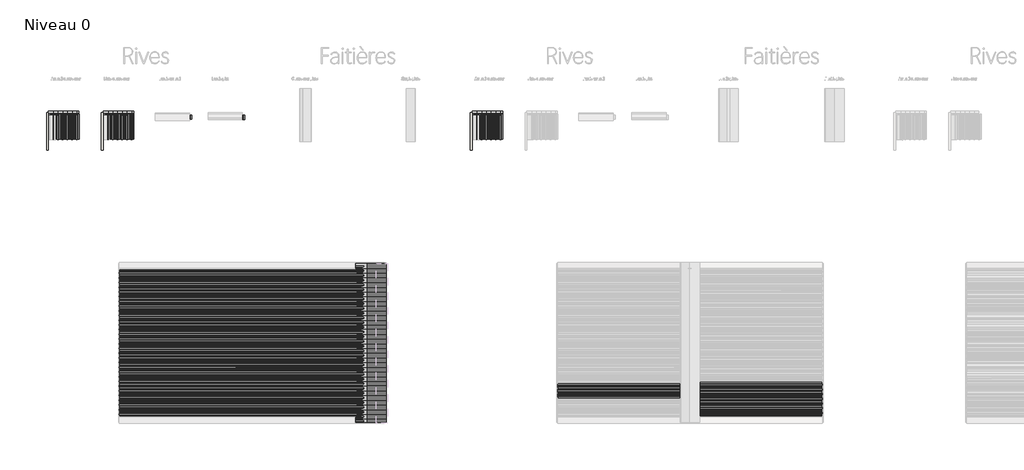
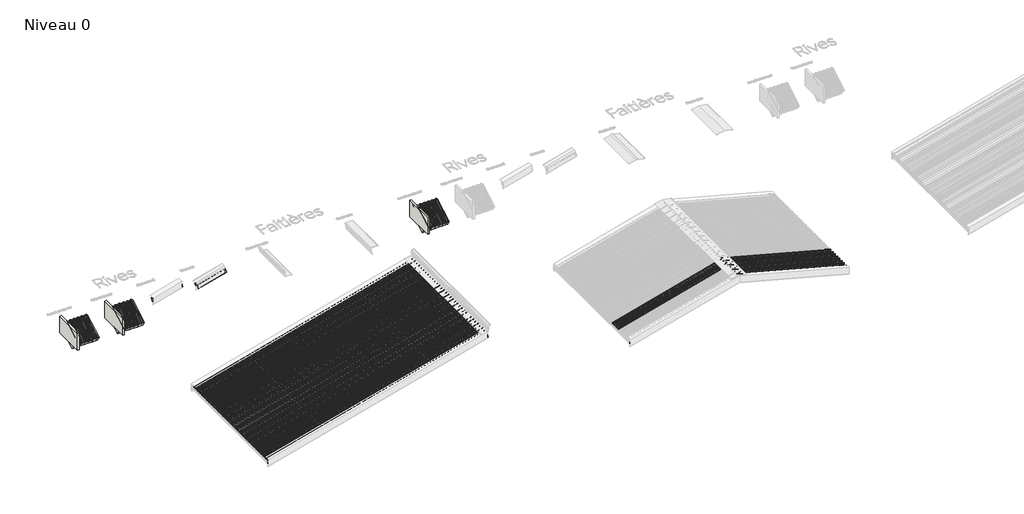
# One storey, part 1 of 26: 65 plates, 62 members, 3 walls.
"""IFC4 building model written with IfcOpenShell, lengths in millimetres."""

from ifc_helpers import new_model, si_unit, origin, origin_with_axes, place, context, project, spatial, polyline, outline, extrude, transform, mapped, element, save
from components import meneau_rectangulaire_d1d4f6c5, meneau_rectangulaire_3ecfb573, meneau_rectangulaire_c6909a84, vide_3626a5d1, vide_fa33940b, vide_f7097931, vide_4c8c02ac, vide_0bd5e38c, vide_01bff3c3, vide_253f0f0f, vide_02c59cd9, vide_d869a2ce, vide_5da8b72d

model = new_model("IFC4")

# Units and contexts
model_context = context("Model", 3, world=origin())
ifc_project = project(units=[si_unit("LENGTHUNIT", "METRE", prefix="MILLI")], contexts=[model_context])

# Site, building, storey
site = spatial("IfcSite", under=ifc_project)
building = spatial("IfcBuilding", under=site)
storey = spatial("IfcBuildingStorey", under=building, Name="Niveau 0", Elevation=0.0)

# Members
placement = place(None, origin())
meneau_rectangulaire_shape = meneau_rectangulaire_d1d4f6c5(model_context)
element("IfcMember", 1, ObjectType="Meneau rectangulaire : Regolare 800", at=placement, inside=storey, context=model_context, shape_type="MappedRepresentation", body=[
    mapped(meneau_rectangulaire_shape, transform((-2456.8177571, -11801.43371, 1339.7459622), x_axis=(0.0, -1.0, 0.0), y_axis=(0.25881904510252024, 0.0, -0.9659258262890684), z_axis=(0.9659258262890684, 0.0, 0.25881904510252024))),
])
element("IfcMember", 2, ObjectType="Meneau rectangulaire : Regolare 800", at=placement, inside=storey, context=model_context, shape_type="MappedRepresentation", body=[
    mapped(meneau_rectangulaire_shape, transform((-2456.8177571, -11890.43371, 1339.7459622), x_axis=(0.0, -1.0, 0.0), y_axis=(0.25881904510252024, 0.0, -0.9659258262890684), z_axis=(0.9659258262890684, 0.0, 0.25881904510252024))),
])
element("IfcMember", 3, ObjectType="Meneau rectangulaire : Regolare 800", at=placement, inside=storey, context=model_context, shape_type="MappedRepresentation", body=[
    mapped(meneau_rectangulaire_shape, transform((-2456.8177571, -11979.43371, 1339.7459622), x_axis=(0.0, -1.0, 0.0), y_axis=(0.25881904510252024, 0.0, -0.9659258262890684), z_axis=(0.9659258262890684, 0.0, 0.25881904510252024))),
])
element("IfcMember", 4, ObjectType="Meneau rectangulaire : Regolare 800", at=placement, inside=storey, context=model_context, shape_type="MappedRepresentation", body=[
    mapped(meneau_rectangulaire_shape, transform((-2456.8177571, -12068.43371, 1339.7459622), x_axis=(0.0, -1.0, 0.0), y_axis=(0.25881904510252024, 0.0, -0.9659258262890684), z_axis=(0.9659258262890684, 0.0, 0.25881904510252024))),
])
element("IfcMember", 5, ObjectType="Meneau rectangulaire : Regolare 800", at=placement, inside=storey, context=model_context, shape_type="MappedRepresentation", body=[
    mapped(meneau_rectangulaire_shape, transform((-2456.8177571, -12157.43371, 1339.7459622), x_axis=(0.0, -1.0, 0.0), y_axis=(0.25881904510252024, 0.0, -0.9659258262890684), z_axis=(0.9659258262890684, 0.0, 0.25881904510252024))),
])
element("IfcMember", 6, ObjectType="Meneau rectangulaire : Regolare 800", at=placement, inside=storey, context=model_context, shape_type="MappedRepresentation", body=[
    mapped(meneau_rectangulaire_shape, transform((-2456.8177571, -12246.43371, 1339.7459622), x_axis=(0.0, -1.0, 0.0), y_axis=(0.25881904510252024, 0.0, -0.9659258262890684), z_axis=(0.9659258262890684, 0.0, 0.25881904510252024))),
])
element("IfcMember", 7, ObjectType="Meneau rectangulaire : Regolare 800", at=placement, inside=storey, context=model_context, shape_type="MappedRepresentation", body=[
    mapped(meneau_rectangulaire_shape, transform((-2456.8177571, -12335.43371, 1339.7459622), x_axis=(0.0, -1.0, 0.0), y_axis=(0.25881904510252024, 0.0, -0.9659258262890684), z_axis=(0.9659258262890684, 0.0, 0.25881904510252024))),
])
element("IfcMember", 8, ObjectType="Meneau rectangulaire : Regolare 800", at=placement, inside=storey, context=model_context, shape_type="MappedRepresentation", body=[
    mapped(meneau_rectangulaire_shape, transform((-2456.8177571, -12424.43371, 1339.7459622), x_axis=(0.0, -1.0, 0.0), y_axis=(0.25881904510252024, 0.0, -0.9659258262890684), z_axis=(0.9659258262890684, 0.0, 0.25881904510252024))),
])
element("IfcMember", 9, ObjectType="Meneau rectangulaire : Regolare 800", at=placement, inside=storey, context=model_context, shape_type="MappedRepresentation", body=[
    mapped(meneau_rectangulaire_shape, transform((-2456.8177571, -12513.43371, 1339.7459622), x_axis=(0.0, -1.0, 0.0), y_axis=(0.25881904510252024, 0.0, -0.9659258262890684), z_axis=(0.9659258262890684, 0.0, 0.25881904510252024))),
])
element("IfcMember", 10, ObjectType="Meneau rectangulaire : Regolare 800", at=placement, inside=storey, context=model_context, shape_type="MappedRepresentation", body=[
    mapped(meneau_rectangulaire_shape, transform((-2456.8177571, -12602.43371, 1339.7459622), x_axis=(0.0, -1.0, 0.0), y_axis=(0.25881904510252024, 0.0, -0.9659258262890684), z_axis=(0.9659258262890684, 0.0, 0.25881904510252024))),
])
element("IfcMember", 11, ObjectType="Meneau rectangulaire : Regolare 800", at=placement, inside=storey, context=model_context, shape_type="MappedRepresentation", body=[
    mapped(meneau_rectangulaire_shape, transform((-2456.8177571, -12691.43371, 1339.7459622), x_axis=(0.0, -1.0, 0.0), y_axis=(0.25881904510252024, 0.0, -0.9659258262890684), z_axis=(0.9659258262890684, 0.0, 0.25881904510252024))),
])
element("IfcMember", 12, ObjectType="Meneau rectangulaire : Regolare 800", at=placement, inside=storey, context=model_context, shape_type="MappedRepresentation", body=[
    mapped(meneau_rectangulaire_shape, transform((-2456.8177571, -12780.43371, 1339.7459622), x_axis=(0.0, -1.0, 0.0), y_axis=(0.25881904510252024, 0.0, -0.9659258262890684), z_axis=(0.9659258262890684, 0.0, 0.25881904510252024))),
])
element("IfcMember", 13, ObjectType="Meneau rectangulaire : Regolare 800", at=placement, inside=storey, context=model_context, shape_type="MappedRepresentation", body=[
    mapped(meneau_rectangulaire_shape, transform((-2456.8177571, -12869.43371, 1339.7459622), x_axis=(0.0, -1.0, 0.0), y_axis=(0.25881904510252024, 0.0, -0.9659258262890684), z_axis=(0.9659258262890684, 0.0, 0.25881904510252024))),
])
element("IfcMember", 14, ObjectType="Meneau rectangulaire : Regolare 800", at=placement, inside=storey, context=model_context, shape_type="MappedRepresentation", body=[
    mapped(meneau_rectangulaire_shape, transform((-2456.8177571, -12958.43371, 1339.7459622), x_axis=(0.0, -1.0, 0.0), y_axis=(0.25881904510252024, 0.0, -0.9659258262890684), z_axis=(0.9659258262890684, 0.0, 0.25881904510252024))),
])
element("IfcMember", 15, ObjectType="Meneau rectangulaire : Regolare 800", at=placement, inside=storey, context=model_context, shape_type="MappedRepresentation", body=[
    mapped(meneau_rectangulaire_shape, transform((-2456.8177571, -13047.43371, 1339.7459622), x_axis=(0.0, -1.0, 0.0), y_axis=(0.25881904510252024, 0.0, -0.9659258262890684), z_axis=(0.9659258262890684, 0.0, 0.25881904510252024))),
])
element("IfcMember", 16, ObjectType="Meneau rectangulaire : Regolare 800", at=placement, inside=storey, context=model_context, shape_type="MappedRepresentation", body=[
    mapped(meneau_rectangulaire_shape, transform((-2456.8177571, -13136.43371, 1339.7459622), x_axis=(0.0, -1.0, 0.0), y_axis=(0.25881904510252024, 0.0, -0.9659258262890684), z_axis=(0.9659258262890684, 0.0, 0.25881904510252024))),
])
element("IfcMember", 17, ObjectType="Meneau rectangulaire : Regolare 800", at=placement, inside=storey, context=model_context, shape_type="MappedRepresentation", body=[
    mapped(meneau_rectangulaire_shape, transform((-2456.8177571, -13225.43371, 1339.7459622), x_axis=(0.0, -1.0, 0.0), y_axis=(0.25881904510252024, 0.0, -0.9659258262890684), z_axis=(0.9659258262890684, 0.0, 0.25881904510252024))),
])
element("IfcMember", 18, ObjectType="Meneau rectangulaire : Regolare 800", at=placement, inside=storey, context=model_context, shape_type="MappedRepresentation", body=[
    mapped(meneau_rectangulaire_shape, transform((-2456.8177571, -13314.43371, 1339.7459622), x_axis=(0.0, -1.0, 0.0), y_axis=(0.25881904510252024, 0.0, -0.9659258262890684), z_axis=(0.9659258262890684, 0.0, 0.25881904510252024))),
])
element("IfcMember", 19, ObjectType="Meneau rectangulaire : Regolare 800", at=placement, inside=storey, context=model_context, shape_type="MappedRepresentation", body=[
    mapped(meneau_rectangulaire_shape, transform((-2456.8177571, -13403.43371, 1339.7459622), x_axis=(0.0, -1.0, 0.0), y_axis=(0.25881904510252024, 0.0, -0.9659258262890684), z_axis=(0.9659258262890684, 0.0, 0.25881904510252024))),
])
element("IfcMember", 20, ObjectType="Meneau rectangulaire : Regolare 800", at=placement, inside=storey, context=model_context, shape_type="MappedRepresentation", body=[
    mapped(meneau_rectangulaire_shape, transform((-2456.8177571, -13492.43371, 1339.7459622), x_axis=(0.0, -1.0, 0.0), y_axis=(0.25881904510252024, 0.0, -0.9659258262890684), z_axis=(0.9659258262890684, 0.0, 0.25881904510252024))),
])
element("IfcMember", 21, ObjectType="Meneau rectangulaire : Regolare 800", at=placement, inside=storey, context=model_context, shape_type="MappedRepresentation", body=[
    mapped(meneau_rectangulaire_shape, transform((-2456.8177571, -13581.43371, 1339.7459622), x_axis=(0.0, -1.0, 0.0), y_axis=(0.25881904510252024, 0.0, -0.9659258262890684), z_axis=(0.9659258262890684, 0.0, 0.25881904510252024))),
])
element("IfcMember", 22, ObjectType="Meneau rectangulaire : Regolare 800", at=placement, inside=storey, context=model_context, shape_type="MappedRepresentation", body=[
    mapped(meneau_rectangulaire_shape, transform((-2456.8177571, -13670.43371, 1339.7459622), x_axis=(0.0, -1.0, 0.0), y_axis=(0.25881904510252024, 0.0, -0.9659258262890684), z_axis=(0.9659258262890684, 0.0, 0.25881904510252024))),
])
element("IfcMember", 23, ObjectType="Meneau rectangulaire : Regolare 800", at=placement, inside=storey, context=model_context, shape_type="MappedRepresentation", body=[
    mapped(meneau_rectangulaire_shape, transform((-2456.8177571, -13759.43371, 1339.7459622), x_axis=(0.0, -1.0, 0.0), y_axis=(0.25881904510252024, 0.0, -0.9659258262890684), z_axis=(0.9659258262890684, 0.0, 0.25881904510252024))),
])
element("IfcMember", 24, ObjectType="Meneau rectangulaire : Regolare 800", at=placement, inside=storey, context=model_context, shape_type="MappedRepresentation", body=[
    mapped(meneau_rectangulaire_shape, transform((-2456.8177571, -13848.43371, 1339.7459622), x_axis=(0.0, -1.0, 0.0), y_axis=(0.25881904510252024, 0.0, -0.9659258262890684), z_axis=(0.9659258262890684, 0.0, 0.25881904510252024))),
])
element("IfcMember", 25, ObjectType="Meneau rectangulaire : Regolare 800", at=placement, inside=storey, context=model_context, shape_type="MappedRepresentation", body=[
    mapped(meneau_rectangulaire_shape, transform((-2456.8177571, -13937.43371, 1339.7459622), x_axis=(0.0, -1.0, 0.0), y_axis=(0.25881904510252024, 0.0, -0.9659258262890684), z_axis=(0.9659258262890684, 0.0, 0.25881904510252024))),
])
element("IfcMember", 26, ObjectType="Meneau rectangulaire : Regolare 800", at=placement, inside=storey, context=model_context, shape_type="MappedRepresentation", body=[
    mapped(meneau_rectangulaire_shape, transform((-2456.8177571, -14026.43371, 1339.7459622), x_axis=(0.0, -1.0, 0.0), y_axis=(0.25881904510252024, 0.0, -0.9659258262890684), z_axis=(0.9659258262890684, 0.0, 0.25881904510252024))),
])
element("IfcMember", 27, ObjectType="Meneau rectangulaire : Regolare 800", at=placement, inside=storey, context=model_context, shape_type="MappedRepresentation", body=[
    mapped(meneau_rectangulaire_shape, transform((-2456.8177571, -14115.43371, 1339.7459622), x_axis=(0.0, -1.0, 0.0), y_axis=(0.25881904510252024, 0.0, -0.9659258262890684), z_axis=(0.9659258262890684, 0.0, 0.25881904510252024))),
])
element("IfcMember", 28, ObjectType="Meneau rectangulaire : Regolare 800", at=placement, inside=storey, context=model_context, shape_type="MappedRepresentation", body=[
    mapped(meneau_rectangulaire_shape, transform((-2456.8177571, -14204.43371, 1339.7459622), x_axis=(0.0, -1.0, 0.0), y_axis=(0.25881904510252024, 0.0, -0.9659258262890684), z_axis=(0.9659258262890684, 0.0, 0.25881904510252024))),
])
element("IfcMember", 29, ObjectType="Meneau rectangulaire : Regolare 800", at=placement, inside=storey, context=model_context, shape_type="MappedRepresentation", body=[
    mapped(meneau_rectangulaire_shape, transform((-2456.8177571, -14293.43371, 1339.7459622), x_axis=(0.0, -1.0, 0.0), y_axis=(0.25881904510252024, 0.0, -0.9659258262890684), z_axis=(0.9659258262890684, 0.0, 0.25881904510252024))),
])
element("IfcMember", 30, ObjectType="Meneau rectangulaire : Regolare 800", at=placement, inside=storey, context=model_context, shape_type="MappedRepresentation", body=[
    mapped(meneau_rectangulaire_shape, transform((-2456.8177571, -14382.43371, 1339.7459622), x_axis=(0.0, -1.0, 0.0), y_axis=(0.25881904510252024, 0.0, -0.9659258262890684), z_axis=(0.9659258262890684, 0.0, 0.25881904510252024))),
])
element("IfcMember", 31, ObjectType="Meneau rectangulaire : Regolare 800", at=placement, inside=storey, context=model_context, shape_type="MappedRepresentation", body=[
    mapped(meneau_rectangulaire_shape, transform((-2456.8177571, -14471.43371, 1339.7459622), x_axis=(0.0, -1.0, 0.0), y_axis=(0.25881904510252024, 0.0, -0.9659258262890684), z_axis=(0.9659258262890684, 0.0, 0.25881904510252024))),
])
element("IfcMember", 32, ObjectType="Meneau rectangulaire : Regolare 800", at=placement, inside=storey, context=model_context, shape_type="MappedRepresentation", body=[
    mapped(meneau_rectangulaire_shape, transform((-2456.8177571, -14560.43371, 1339.7459622), x_axis=(0.0, -1.0, 0.0), y_axis=(0.25881904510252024, 0.0, -0.9659258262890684), z_axis=(0.9659258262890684, 0.0, 0.25881904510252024))),
])
element("IfcMember", 33, ObjectType="Meneau rectangulaire : Regolare 800", at=placement, inside=storey, context=model_context, shape_type="MappedRepresentation", body=[
    mapped(meneau_rectangulaire_shape, transform((-2456.8177571, -14649.43371, 1339.7459622), x_axis=(0.0, -1.0, 0.0), y_axis=(0.25881904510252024, 0.0, -0.9659258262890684), z_axis=(0.9659258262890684, 0.0, 0.25881904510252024))),
])
meneau_rectangulaire_2_shape = meneau_rectangulaire_3ecfb573(model_context)
element("IfcMember", 34, ObjectType="Meneau rectangulaire : Regolare 800", at=placement, inside=storey, context=model_context, shape_type="MappedRepresentation", body=[
    mapped(meneau_rectangulaire_2_shape, transform((-8706.8177568, -8904.2596825, 269.9457298), x_axis=(1.0, 0.0, 0.0), y_axis=(0.0, 0.5000000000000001, -0.8660254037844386), z_axis=(0.0, 0.8660254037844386, 0.5000000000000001))),
])
element("IfcMember", 35, ObjectType="Meneau rectangulaire : Regolare 800", at=placement, inside=storey, context=model_context, shape_type="MappedRepresentation", body=[
    mapped(meneau_rectangulaire_2_shape, transform((-8617.8177568, -8904.2596825, 269.9457298), x_axis=(1.0, 0.0, 0.0), y_axis=(0.0, 0.5000000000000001, -0.8660254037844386), z_axis=(0.0, 0.8660254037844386, 0.5000000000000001))),
])
element("IfcMember", 36, ObjectType="Meneau rectangulaire : Regolare 800", at=placement, inside=storey, context=model_context, shape_type="MappedRepresentation", body=[
    mapped(meneau_rectangulaire_2_shape, transform((-8528.8177568, -8904.2596825, 269.9457298), x_axis=(1.0, 0.0, 0.0), y_axis=(0.0, 0.5000000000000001, -0.8660254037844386), z_axis=(0.0, 0.8660254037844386, 0.5000000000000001))),
])
element("IfcMember", 37, ObjectType="Meneau rectangulaire : Regolare 800", at=placement, inside=storey, context=model_context, shape_type="MappedRepresentation", body=[
    mapped(meneau_rectangulaire_2_shape, transform((-8439.8177568, -8904.2596825, 269.9457298), x_axis=(1.0, 0.0, 0.0), y_axis=(0.0, 0.5000000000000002, -0.8660254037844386), z_axis=(0.0, 0.8660254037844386, 0.5000000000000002))),
])
element("IfcMember", 38, ObjectType="Meneau rectangulaire : Regolare 800", at=placement, inside=storey, context=model_context, shape_type="MappedRepresentation", body=[
    mapped(meneau_rectangulaire_2_shape, transform((-8350.8177568, -8904.2596825, 269.9457298), x_axis=(1.0, 0.0, 0.0), y_axis=(0.0, 0.5000000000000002, -0.8660254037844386), z_axis=(0.0, 0.8660254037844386, 0.5000000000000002))),
])
element("IfcMember", 39, ObjectType="Meneau rectangulaire : Regolare 800", at=placement, inside=storey, context=model_context, shape_type="MappedRepresentation", body=[
    mapped(meneau_rectangulaire_2_shape, transform((-8261.8177568, -8904.2596825, 269.9457298), x_axis=(1.0, 0.0, 0.0), y_axis=(0.0, 0.5000000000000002, -0.8660254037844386), z_axis=(0.0, 0.8660254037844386, 0.5000000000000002))),
])
element("IfcMember", 40, ObjectType="Meneau rectangulaire : Regolare 800", at=placement, inside=storey, context=model_context, shape_type="MappedRepresentation", body=[
    mapped(meneau_rectangulaire_2_shape, transform((-7671.3435016, -8904.2596825, 269.9457298), x_axis=(1.0, 0.0, 0.0), y_axis=(0.0, 0.5000000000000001, -0.8660254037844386), z_axis=(0.0, 0.8660254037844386, 0.5000000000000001))),
])
element("IfcMember", 41, ObjectType="Meneau rectangulaire : Regolare 800", at=placement, inside=storey, context=model_context, shape_type="MappedRepresentation", body=[
    mapped(meneau_rectangulaire_2_shape, transform((-7582.3435016, -8904.2596825, 269.9457298), x_axis=(1.0, 0.0, 0.0), y_axis=(0.0, 0.5000000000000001, -0.8660254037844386), z_axis=(0.0, 0.8660254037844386, 0.5000000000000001))),
])
element("IfcMember", 42, ObjectType="Meneau rectangulaire : Regolare 800", at=placement, inside=storey, context=model_context, shape_type="MappedRepresentation", body=[
    mapped(meneau_rectangulaire_2_shape, transform((-7493.3435016, -8904.2596825, 269.9457298), x_axis=(1.0, 0.0, 0.0), y_axis=(0.0, 0.5000000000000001, -0.8660254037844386), z_axis=(0.0, 0.8660254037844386, 0.5000000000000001))),
])
element("IfcMember", 43, ObjectType="Meneau rectangulaire : Regolare 800", at=placement, inside=storey, context=model_context, shape_type="MappedRepresentation", body=[
    mapped(meneau_rectangulaire_2_shape, transform((-7404.3435016, -8904.2596825, 269.9457298), x_axis=(1.0, 0.0, 0.0), y_axis=(0.0, 0.5000000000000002, -0.8660254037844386), z_axis=(0.0, 0.8660254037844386, 0.5000000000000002))),
])
element("IfcMember", 44, ObjectType="Meneau rectangulaire : Regolare 800", at=placement, inside=storey, context=model_context, shape_type="MappedRepresentation", body=[
    mapped(meneau_rectangulaire_2_shape, transform((-7315.3435016, -8904.2596825, 269.9457298), x_axis=(1.0, 0.0, 0.0), y_axis=(0.0, 0.5000000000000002, -0.8660254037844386), z_axis=(0.0, 0.8660254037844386, 0.5000000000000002))),
])
element("IfcMember", 45, ObjectType="Meneau rectangulaire : Regolare 800", at=placement, inside=storey, context=model_context, shape_type="MappedRepresentation", body=[
    mapped(meneau_rectangulaire_2_shape, transform((-7226.3435016, -8904.2596825, 269.9457298), x_axis=(1.0, 0.0, 0.0), y_axis=(0.0, 0.5000000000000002, -0.8660254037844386), z_axis=(0.0, 0.8660254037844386, 0.5000000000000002))),
])
element("IfcMember", 46, ObjectType="Meneau rectangulaire : Regolare 800", at=placement, inside=storey, context=model_context, shape_type="MappedRepresentation", body=[
    mapped(meneau_rectangulaire_2_shape, transform((-706.8177568, -8904.2596825, 269.9457298), x_axis=(1.0, 0.0, 0.0), y_axis=(0.0, 0.5000000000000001, -0.8660254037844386), z_axis=(0.0, 0.8660254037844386, 0.5000000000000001))),
])
element("IfcMember", 47, ObjectType="Meneau rectangulaire : Regolare 800", at=placement, inside=storey, context=model_context, shape_type="MappedRepresentation", body=[
    mapped(meneau_rectangulaire_2_shape, transform((-617.8177568, -8904.2596825, 269.9457298), x_axis=(1.0, 0.0, 0.0), y_axis=(0.0, 0.5000000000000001, -0.8660254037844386), z_axis=(0.0, 0.8660254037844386, 0.5000000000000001))),
])
element("IfcMember", 48, ObjectType="Meneau rectangulaire : Regolare 800", at=placement, inside=storey, context=model_context, shape_type="MappedRepresentation", body=[
    mapped(meneau_rectangulaire_2_shape, transform((-528.8177568, -8904.2596825, 269.9457298), x_axis=(1.0, 0.0, 0.0), y_axis=(0.0, 0.5000000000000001, -0.8660254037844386), z_axis=(0.0, 0.8660254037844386, 0.5000000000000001))),
])
element("IfcMember", 49, ObjectType="Meneau rectangulaire : Regolare 800", at=placement, inside=storey, context=model_context, shape_type="MappedRepresentation", body=[
    mapped(meneau_rectangulaire_2_shape, transform((-439.8177568, -8904.2596825, 269.9457298), x_axis=(1.0, 0.0, 0.0), y_axis=(0.0, 0.5000000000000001, -0.8660254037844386), z_axis=(0.0, 0.8660254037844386, 0.5000000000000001))),
])
element("IfcMember", 50, ObjectType="Meneau rectangulaire : Regolare 800", at=placement, inside=storey, context=model_context, shape_type="MappedRepresentation", body=[
    mapped(meneau_rectangulaire_2_shape, transform((-350.8177568, -8904.2596825, 269.9457298), x_axis=(1.0, 0.0, 0.0), y_axis=(0.0, 0.5000000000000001, -0.8660254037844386), z_axis=(0.0, 0.8660254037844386, 0.5000000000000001))),
])
element("IfcMember", 51, ObjectType="Meneau rectangulaire : Regolare 800", at=placement, inside=storey, context=model_context, shape_type="MappedRepresentation", body=[
    mapped(meneau_rectangulaire_2_shape, transform((-261.8177568, -8904.2596825, 269.9457298), x_axis=(1.0, 0.0, 0.0), y_axis=(0.0, 0.5000000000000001, -0.8660254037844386), z_axis=(0.0, 0.8660254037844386, 0.5000000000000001))),
])
meneau_rectangulaire_3_shape = meneau_rectangulaire_c6909a84(model_context)
element("IfcMember", 52, ObjectType="Meneau rectangulaire : Regolare 800", at=placement, inside=storey, context=model_context, shape_type="MappedRepresentation", body=[
    mapped(meneau_rectangulaire_3_shape, transform((3316.3996071, -14623.4337094, 669.8729811), x_axis=(0.0, 1.0, 0.0), y_axis=(-0.25881904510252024, 0.0, -0.9659258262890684), z_axis=(-0.9659258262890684, 0.0, 0.25881904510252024))),
])
element("IfcMember", 53, ObjectType="Meneau rectangulaire : Regolare 800", at=placement, inside=storey, context=model_context, shape_type="MappedRepresentation", body=[
    mapped(meneau_rectangulaire_3_shape, transform((3316.3996071, -14534.4337094, 669.8729811), x_axis=(0.0, 1.0, 0.0), y_axis=(-0.25881904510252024, 0.0, -0.9659258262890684), z_axis=(-0.9659258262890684, 0.0, 0.25881904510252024))),
])
element("IfcMember", 54, ObjectType="Meneau rectangulaire : Regolare 800", at=placement, inside=storey, context=model_context, shape_type="MappedRepresentation", body=[
    mapped(meneau_rectangulaire_3_shape, transform((3316.3996071, -14445.4337094, 669.8729811), x_axis=(0.0, 1.0, 0.0), y_axis=(-0.25881904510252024, 0.0, -0.9659258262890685), z_axis=(-0.9659258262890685, 0.0, 0.25881904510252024))),
])
element("IfcMember", 55, ObjectType="Meneau rectangulaire : Regolare 800", at=placement, inside=storey, context=model_context, shape_type="MappedRepresentation", body=[
    mapped(meneau_rectangulaire_3_shape, transform((3316.3996071, -14356.4337094, 669.8729811), x_axis=(0.0, 1.0, 0.0), y_axis=(-0.25881904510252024, 0.0, -0.9659258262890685), z_axis=(-0.9659258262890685, 0.0, 0.25881904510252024))),
])
element("IfcMember", 56, ObjectType="Meneau rectangulaire : Regolare 800", at=placement, inside=storey, context=model_context, shape_type="MappedRepresentation", body=[
    mapped(meneau_rectangulaire_3_shape, transform((3316.3996071, -14267.4337094, 669.8729811), x_axis=(0.0, 1.0, 0.0), y_axis=(-0.25881904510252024, 0.0, -0.9659258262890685), z_axis=(-0.9659258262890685, 0.0, 0.25881904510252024))),
])
element("IfcMember", 57, ObjectType="Meneau rectangulaire : Regolare 800", at=placement, inside=storey, context=model_context, shape_type="MappedRepresentation", body=[
    mapped(meneau_rectangulaire_3_shape, transform((3316.3996071, -14178.4337094, 669.8729811), x_axis=(0.0, 1.0, 0.0), y_axis=(-0.25881904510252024, 0.0, -0.9659258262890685), z_axis=(-0.9659258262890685, 0.0, 0.25881904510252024))),
])
element("IfcMember", 58, ObjectType="Meneau rectangulaire : Regolare 800", at=placement, inside=storey, context=model_context, shape_type="MappedRepresentation", body=[
    mapped(meneau_rectangulaire_3_shape, transform((3316.3996071, -14089.4337094, 669.8729811), x_axis=(0.0, 1.0, 0.0), y_axis=(-0.25881904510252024, 0.0, -0.9659258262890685), z_axis=(-0.9659258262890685, 0.0, 0.25881904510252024))),
])
element("IfcMember", 59, ObjectType="Meneau rectangulaire : Regolare 800", at=placement, inside=storey, context=model_context, shape_type="MappedRepresentation", body=[
    mapped(meneau_rectangulaire_3_shape, transform((3316.3996071, -14000.4337094, 669.8729811), x_axis=(0.0, 1.0, 0.0), y_axis=(-0.25881904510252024, 0.0, -0.9659258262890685), z_axis=(-0.9659258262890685, 0.0, 0.25881904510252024))),
])
element("IfcMember", 60, ObjectType="Meneau rectangulaire : Regolare 800", at=placement, inside=storey, context=model_context, shape_type="MappedRepresentation", body=[
    mapped(meneau_rectangulaire_3_shape, transform((3316.3996071, -14026.43371, 669.8729811), x_axis=(0.0, -1.0, 0.0), y_axis=(0.25881904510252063, 0.0, -0.9659258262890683), z_axis=(0.9659258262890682, 0.0, 0.2588190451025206))),
])
element("IfcMember", 61, ObjectType="Meneau rectangulaire : Regolare 800", at=placement, inside=storey, context=model_context, shape_type="MappedRepresentation", body=[
    mapped(meneau_rectangulaire_3_shape, transform((3316.3996071, -14115.43371, 669.8729811), x_axis=(0.0, -1.0, 0.0), y_axis=(0.25881904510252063, 0.0, -0.9659258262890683), z_axis=(0.9659258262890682, 0.0, 0.2588190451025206))),
])
element("IfcMember", 62, ObjectType="Meneau rectangulaire : Regolare 800", at=placement, inside=storey, context=model_context, shape_type="MappedRepresentation", body=[
    mapped(meneau_rectangulaire_3_shape, transform((3316.3996071, -14204.43371, 669.8729811), x_axis=(0.0, -1.0, 0.0), y_axis=(0.25881904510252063, 0.0, -0.9659258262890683), z_axis=(0.9659258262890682, 0.0, 0.2588190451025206))),
])

# Plates
vide_shape = vide_3626a5d1(model_context)
element("IfcPlate", 63, ObjectType="Panneau système vide : Vide", at=placement, inside=storey, context=model_context, shape_type="MappedRepresentation", body=[
    mapped(vide_shape, transform((816.3996071, -14070.93371, 0.0), x_axis=(0.0, -1.0, 0.0), y_axis=(0.2588190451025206, 0.0, -0.9659258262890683), z_axis=(0.9659258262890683, 0.0, 0.2588190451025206))),
])
element("IfcPlate", 64, ObjectType="Panneau système vide : Vide", at=placement, inside=storey, context=model_context, shape_type="MappedRepresentation", body=[
    mapped(vide_shape, transform((816.3996071, -14159.93371, 0.0), x_axis=(0.0, -1.0, 0.0), y_axis=(0.2588190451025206, 0.0, -0.9659258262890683), z_axis=(0.9659258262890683, 0.0, 0.2588190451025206))),
])
element("IfcPlate", 65, ObjectType="Panneau système vide : Vide", at=placement, inside=storey, context=model_context, shape_type="MappedRepresentation", body=[
    mapped(vide_shape, transform((816.3996071, -14248.93371, 0.0), x_axis=(0.0, -1.0, 0.0), y_axis=(0.2588190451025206, 0.0, -0.9659258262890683), z_axis=(0.9659258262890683, 0.0, 0.2588190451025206))),
])
element("IfcPlate", 66, ObjectType="Panneau système vide : Vide", at=placement, inside=storey, context=model_context, shape_type="MappedRepresentation", body=[
    mapped(vide_shape, transform((816.3996071, -14337.93371, 0.0), x_axis=(0.0, -1.0, 0.0), y_axis=(0.2588190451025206, 0.0, -0.9659258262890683), z_axis=(0.9659258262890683, 0.0, 0.2588190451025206))),
])
element("IfcPlate", 67, ObjectType="Panneau système vide : Vide", at=placement, inside=storey, context=model_context, shape_type="MappedRepresentation", body=[
    mapped(vide_shape, transform((816.3996071, -14426.93371, 0.0), x_axis=(0.0, -1.0, 0.0), y_axis=(0.2588190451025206, 0.0, -0.9659258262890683), z_axis=(0.9659258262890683, 0.0, 0.2588190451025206))),
])
element("IfcPlate", 68, ObjectType="Panneau système vide : Vide", at=placement, inside=storey, context=model_context, shape_type="MappedRepresentation", body=[
    mapped(vide_shape, transform((816.3996071, -14515.93371, 0.0), x_axis=(0.0, -1.0, 0.0), y_axis=(0.2588190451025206, 0.0, -0.9659258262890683), z_axis=(0.9659258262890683, 0.0, 0.2588190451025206))),
])
element("IfcPlate", 69, ObjectType="Panneau système vide : Vide", at=placement, inside=storey, context=model_context, shape_type="MappedRepresentation", body=[
    mapped(vide_shape, transform((816.3996071, -14604.93371, 0.0), x_axis=(0.0, -1.0, 0.0), y_axis=(0.2588190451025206, 0.0, -0.9659258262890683), z_axis=(0.9659258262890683, 0.0, 0.2588190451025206))),
])
vide_2_shape = vide_fa33940b(model_context)
element("IfcPlate", 70, ObjectType="Panneau système vide : Vide", at=placement, inside=storey, context=model_context, shape_type="MappedRepresentation", body=[
    mapped(vide_2_shape, transform((-7456.8177571, -11756.9337098, 0.0), x_axis=(0.0, -1.0, 0.0), y_axis=(0.25881904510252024, 0.0, -0.9659258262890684), z_axis=(0.9659258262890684, 0.0, 0.25881904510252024))),
])
vide_3_shape = vide_f7097931(model_context)
element("IfcPlate", 71, ObjectType="Panneau système vide : Vide", at=placement, inside=storey, context=model_context, shape_type="MappedRepresentation", body=[
    mapped(vide_3_shape, transform((-7456.8177571, -11845.93371, 0.0), x_axis=(0.0, -1.0, 0.0), y_axis=(0.25881904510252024, 0.0, -0.9659258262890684), z_axis=(0.9659258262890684, 0.0, 0.25881904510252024))),
])
element("IfcPlate", 72, ObjectType="Panneau système vide : Vide", at=placement, inside=storey, context=model_context, shape_type="MappedRepresentation", body=[
    mapped(vide_3_shape, transform((-7456.8177571, -11934.93371, 0.0), x_axis=(0.0, -1.0, 0.0), y_axis=(0.25881904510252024, 0.0, -0.9659258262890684), z_axis=(0.9659258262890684, 0.0, 0.25881904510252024))),
])
element("IfcPlate", 73, ObjectType="Panneau système vide : Vide", at=placement, inside=storey, context=model_context, shape_type="MappedRepresentation", body=[
    mapped(vide_3_shape, transform((-7456.8177571, -12023.93371, 0.0), x_axis=(0.0, -1.0, 0.0), y_axis=(0.25881904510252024, 0.0, -0.9659258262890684), z_axis=(0.9659258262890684, 0.0, 0.25881904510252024))),
])
element("IfcPlate", 74, ObjectType="Panneau système vide : Vide", at=placement, inside=storey, context=model_context, shape_type="MappedRepresentation", body=[
    mapped(vide_3_shape, transform((-7456.8177571, -12112.93371, 0.0), x_axis=(0.0, -1.0, 0.0), y_axis=(0.25881904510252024, 0.0, -0.9659258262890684), z_axis=(0.9659258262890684, 0.0, 0.25881904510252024))),
])
element("IfcPlate", 75, ObjectType="Panneau système vide : Vide", at=placement, inside=storey, context=model_context, shape_type="MappedRepresentation", body=[
    mapped(vide_3_shape, transform((-7456.8177571, -12201.93371, 0.0), x_axis=(0.0, -1.0, 0.0), y_axis=(0.25881904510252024, 0.0, -0.9659258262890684), z_axis=(0.9659258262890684, 0.0, 0.25881904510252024))),
])
element("IfcPlate", 76, ObjectType="Panneau système vide : Vide", at=placement, inside=storey, context=model_context, shape_type="MappedRepresentation", body=[
    mapped(vide_3_shape, transform((-7456.8177571, -12290.93371, 0.0), x_axis=(0.0, -1.0, 0.0), y_axis=(0.25881904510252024, 0.0, -0.9659258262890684), z_axis=(0.9659258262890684, 0.0, 0.25881904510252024))),
])
element("IfcPlate", 77, ObjectType="Panneau système vide : Vide", at=placement, inside=storey, context=model_context, shape_type="MappedRepresentation", body=[
    mapped(vide_3_shape, transform((-7456.8177571, -12379.93371, 0.0), x_axis=(0.0, -1.0, 0.0), y_axis=(0.25881904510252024, 0.0, -0.9659258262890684), z_axis=(0.9659258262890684, 0.0, 0.25881904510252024))),
])
element("IfcPlate", 78, ObjectType="Panneau système vide : Vide", at=placement, inside=storey, context=model_context, shape_type="MappedRepresentation", body=[
    mapped(vide_3_shape, transform((-7456.8177571, -12468.93371, 0.0), x_axis=(0.0, -1.0, 0.0), y_axis=(0.25881904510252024, 0.0, -0.9659258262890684), z_axis=(0.9659258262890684, 0.0, 0.25881904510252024))),
])
element("IfcPlate", 79, ObjectType="Panneau système vide : Vide", at=placement, inside=storey, context=model_context, shape_type="MappedRepresentation", body=[
    mapped(vide_3_shape, transform((-7456.8177571, -12557.93371, 0.0), x_axis=(0.0, -1.0, 0.0), y_axis=(0.25881904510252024, 0.0, -0.9659258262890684), z_axis=(0.9659258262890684, 0.0, 0.25881904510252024))),
])
element("IfcPlate", 80, ObjectType="Panneau système vide : Vide", at=placement, inside=storey, context=model_context, shape_type="MappedRepresentation", body=[
    mapped(vide_3_shape, transform((-7456.8177571, -12646.93371, 0.0), x_axis=(0.0, -1.0, 0.0), y_axis=(0.25881904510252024, 0.0, -0.9659258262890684), z_axis=(0.9659258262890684, 0.0, 0.25881904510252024))),
])
element("IfcPlate", 81, ObjectType="Panneau système vide : Vide", at=placement, inside=storey, context=model_context, shape_type="MappedRepresentation", body=[
    mapped(vide_3_shape, transform((-7456.8177571, -12735.93371, 0.0), x_axis=(0.0, -1.0, 0.0), y_axis=(0.25881904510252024, 0.0, -0.9659258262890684), z_axis=(0.9659258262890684, 0.0, 0.25881904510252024))),
])
element("IfcPlate", 82, ObjectType="Panneau système vide : Vide", at=placement, inside=storey, context=model_context, shape_type="MappedRepresentation", body=[
    mapped(vide_3_shape, transform((-7456.8177571, -12824.93371, 0.0), x_axis=(0.0, -1.0, 0.0), y_axis=(0.25881904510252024, 0.0, -0.9659258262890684), z_axis=(0.9659258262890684, 0.0, 0.25881904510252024))),
])
element("IfcPlate", 83, ObjectType="Panneau système vide : Vide", at=placement, inside=storey, context=model_context, shape_type="MappedRepresentation", body=[
    mapped(vide_3_shape, transform((-7456.8177571, -12913.93371, 0.0), x_axis=(0.0, -1.0, 0.0), y_axis=(0.25881904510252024, 0.0, -0.9659258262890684), z_axis=(0.9659258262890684, 0.0, 0.25881904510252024))),
])
element("IfcPlate", 84, ObjectType="Panneau système vide : Vide", at=placement, inside=storey, context=model_context, shape_type="MappedRepresentation", body=[
    mapped(vide_3_shape, transform((-7456.8177571, -13002.93371, 0.0), x_axis=(0.0, -1.0, 0.0), y_axis=(0.25881904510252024, 0.0, -0.9659258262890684), z_axis=(0.9659258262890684, 0.0, 0.25881904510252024))),
])
element("IfcPlate", 85, ObjectType="Panneau système vide : Vide", at=placement, inside=storey, context=model_context, shape_type="MappedRepresentation", body=[
    mapped(vide_3_shape, transform((-7456.8177571, -13091.93371, 0.0), x_axis=(0.0, -1.0, 0.0), y_axis=(0.25881904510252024, 0.0, -0.9659258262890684), z_axis=(0.9659258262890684, 0.0, 0.25881904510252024))),
])
element("IfcPlate", 86, ObjectType="Panneau système vide : Vide", at=placement, inside=storey, context=model_context, shape_type="MappedRepresentation", body=[
    mapped(vide_3_shape, transform((-7456.8177571, -13180.93371, 0.0), x_axis=(0.0, -1.0, 0.0), y_axis=(0.25881904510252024, 0.0, -0.9659258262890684), z_axis=(0.9659258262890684, 0.0, 0.25881904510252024))),
])
element("IfcPlate", 87, ObjectType="Panneau système vide : Vide", at=placement, inside=storey, context=model_context, shape_type="MappedRepresentation", body=[
    mapped(vide_3_shape, transform((-7456.8177571, -13269.93371, 0.0), x_axis=(0.0, -1.0, 0.0), y_axis=(0.25881904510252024, 0.0, -0.9659258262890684), z_axis=(0.9659258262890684, 0.0, 0.25881904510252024))),
])
element("IfcPlate", 88, ObjectType="Panneau système vide : Vide", at=placement, inside=storey, context=model_context, shape_type="MappedRepresentation", body=[
    mapped(vide_3_shape, transform((-7456.8177571, -13358.93371, 0.0), x_axis=(0.0, -1.0, 0.0), y_axis=(0.25881904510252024, 0.0, -0.9659258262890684), z_axis=(0.9659258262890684, 0.0, 0.25881904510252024))),
])
element("IfcPlate", 89, ObjectType="Panneau système vide : Vide", at=placement, inside=storey, context=model_context, shape_type="MappedRepresentation", body=[
    mapped(vide_3_shape, transform((-7456.8177571, -13447.93371, 0.0), x_axis=(0.0, -1.0, 0.0), y_axis=(0.25881904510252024, 0.0, -0.9659258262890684), z_axis=(0.9659258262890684, 0.0, 0.25881904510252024))),
])
element("IfcPlate", 90, ObjectType="Panneau système vide : Vide", at=placement, inside=storey, context=model_context, shape_type="MappedRepresentation", body=[
    mapped(vide_3_shape, transform((-7456.8177571, -13536.93371, 0.0), x_axis=(0.0, -1.0, 0.0), y_axis=(0.25881904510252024, 0.0, -0.9659258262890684), z_axis=(0.9659258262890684, 0.0, 0.25881904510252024))),
])
element("IfcPlate", 91, ObjectType="Panneau système vide : Vide", at=placement, inside=storey, context=model_context, shape_type="MappedRepresentation", body=[
    mapped(vide_3_shape, transform((-7456.8177571, -13625.93371, 0.0), x_axis=(0.0, -1.0, 0.0), y_axis=(0.25881904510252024, 0.0, -0.9659258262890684), z_axis=(0.9659258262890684, 0.0, 0.25881904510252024))),
])
element("IfcPlate", 92, ObjectType="Panneau système vide : Vide", at=placement, inside=storey, context=model_context, shape_type="MappedRepresentation", body=[
    mapped(vide_3_shape, transform((-7456.8177571, -13714.93371, 0.0), x_axis=(0.0, -1.0, 0.0), y_axis=(0.25881904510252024, 0.0, -0.9659258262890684), z_axis=(0.9659258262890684, 0.0, 0.25881904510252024))),
])
element("IfcPlate", 93, ObjectType="Panneau système vide : Vide", at=placement, inside=storey, context=model_context, shape_type="MappedRepresentation", body=[
    mapped(vide_3_shape, transform((-7456.8177571, -13803.93371, 0.0), x_axis=(0.0, -1.0, 0.0), y_axis=(0.25881904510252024, 0.0, -0.9659258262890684), z_axis=(0.9659258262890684, 0.0, 0.25881904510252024))),
])
element("IfcPlate", 94, ObjectType="Panneau système vide : Vide", at=placement, inside=storey, context=model_context, shape_type="MappedRepresentation", body=[
    mapped(vide_3_shape, transform((-7456.8177571, -13892.93371, 0.0), x_axis=(0.0, -1.0, 0.0), y_axis=(0.25881904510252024, 0.0, -0.9659258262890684), z_axis=(0.9659258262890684, 0.0, 0.25881904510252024))),
])
element("IfcPlate", 95, ObjectType="Panneau système vide : Vide", at=placement, inside=storey, context=model_context, shape_type="MappedRepresentation", body=[
    mapped(vide_3_shape, transform((-7456.8177571, -13981.93371, 0.0), x_axis=(0.0, -1.0, 0.0), y_axis=(0.25881904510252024, 0.0, -0.9659258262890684), z_axis=(0.9659258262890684, 0.0, 0.25881904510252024))),
])
element("IfcPlate", 96, ObjectType="Panneau système vide : Vide", at=placement, inside=storey, context=model_context, shape_type="MappedRepresentation", body=[
    mapped(vide_3_shape, transform((-7456.8177571, -14070.93371, 0.0), x_axis=(0.0, -1.0, 0.0), y_axis=(0.25881904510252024, 0.0, -0.9659258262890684), z_axis=(0.9659258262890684, 0.0, 0.25881904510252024))),
])
element("IfcPlate", 97, ObjectType="Panneau système vide : Vide", at=placement, inside=storey, context=model_context, shape_type="MappedRepresentation", body=[
    mapped(vide_3_shape, transform((-7456.8177571, -14159.93371, 0.0), x_axis=(0.0, -1.0, 0.0), y_axis=(0.25881904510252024, 0.0, -0.9659258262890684), z_axis=(0.9659258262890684, 0.0, 0.25881904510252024))),
])
element("IfcPlate", 98, ObjectType="Panneau système vide : Vide", at=placement, inside=storey, context=model_context, shape_type="MappedRepresentation", body=[
    mapped(vide_3_shape, transform((-7456.8177571, -14248.93371, 0.0), x_axis=(0.0, -1.0, 0.0), y_axis=(0.25881904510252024, 0.0, -0.9659258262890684), z_axis=(0.9659258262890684, 0.0, 0.25881904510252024))),
])
element("IfcPlate", 99, ObjectType="Panneau système vide : Vide", at=placement, inside=storey, context=model_context, shape_type="MappedRepresentation", body=[
    mapped(vide_3_shape, transform((-7456.8177571, -14337.93371, 0.0), x_axis=(0.0, -1.0, 0.0), y_axis=(0.25881904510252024, 0.0, -0.9659258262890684), z_axis=(0.9659258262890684, 0.0, 0.25881904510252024))),
])
element("IfcPlate", 100, ObjectType="Panneau système vide : Vide", at=placement, inside=storey, context=model_context, shape_type="MappedRepresentation", body=[
    mapped(vide_3_shape, transform((-7456.8177571, -14426.93371, 0.0), x_axis=(0.0, -1.0, 0.0), y_axis=(0.25881904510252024, 0.0, -0.9659258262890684), z_axis=(0.9659258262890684, 0.0, 0.25881904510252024))),
])
element("IfcPlate", 101, ObjectType="Panneau système vide : Vide", at=placement, inside=storey, context=model_context, shape_type="MappedRepresentation", body=[
    mapped(vide_3_shape, transform((-7456.8177571, -14515.93371, 0.0), x_axis=(0.0, -1.0, 0.0), y_axis=(0.25881904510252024, 0.0, -0.9659258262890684), z_axis=(0.9659258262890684, 0.0, 0.25881904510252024))),
])
element("IfcPlate", 102, ObjectType="Panneau système vide : Vide", at=placement, inside=storey, context=model_context, shape_type="MappedRepresentation", body=[
    mapped(vide_3_shape, transform((-7456.8177571, -14604.93371, 0.0), x_axis=(0.0, -1.0, 0.0), y_axis=(0.25881904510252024, 0.0, -0.9659258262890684), z_axis=(0.9659258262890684, 0.0, 0.25881904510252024))),
])
vide_4_shape = vide_4c8c02ac(model_context)
element("IfcPlate", 103, ObjectType="Panneau système vide : Vide", at=placement, inside=storey, context=model_context, shape_type="MappedRepresentation", body=[
    mapped(vide_4_shape, transform((-8751.3177569, -9371.8194017, 0.0), x_axis=(1.0, 0.0, 0.0), y_axis=(0.0, 0.5000000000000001, -0.8660254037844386), z_axis=(0.0, 0.8660254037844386, 0.5000000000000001))),
])
element("IfcPlate", 104, ObjectType="Panneau système vide : Vide", at=placement, inside=storey, context=model_context, shape_type="MappedRepresentation", body=[
    mapped(vide_4_shape, transform((-7715.8435018, -9371.8194017, 0.0), x_axis=(1.0, 0.0, 0.0), y_axis=(0.0, 0.5000000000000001, -0.8660254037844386), z_axis=(0.0, 0.8660254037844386, 0.5000000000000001))),
])
element("IfcPlate", 105, ObjectType="Panneau système vide : Vide", at=placement, inside=storey, context=model_context, shape_type="MappedRepresentation", body=[
    mapped(vide_4_shape, transform((-751.3177569, -9371.8194017, 0.0), x_axis=(1.0, 0.0, 0.0), y_axis=(0.0, 0.5000000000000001, -0.8660254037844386), z_axis=(0.0, 0.8660254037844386, 0.5000000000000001))),
])
vide_5_shape = vide_0bd5e38c(model_context)
element("IfcPlate", 106, ObjectType="Panneau système vide : Vide", at=placement, inside=storey, context=model_context, shape_type="MappedRepresentation", body=[
    mapped(vide_5_shape, transform((-8662.3177568, -9371.8194017, 0.0), x_axis=(1.0, 0.0, 0.0), y_axis=(0.0, 0.5000000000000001, -0.8660254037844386), z_axis=(0.0, 0.8660254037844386, 0.5000000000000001))),
])
element("IfcPlate", 107, ObjectType="Panneau système vide : Vide", at=placement, inside=storey, context=model_context, shape_type="MappedRepresentation", body=[
    mapped(vide_5_shape, transform((-8573.3177568, -9371.8194017, 0.0), x_axis=(1.0, 0.0, 0.0), y_axis=(0.0, 0.5000000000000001, -0.8660254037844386), z_axis=(0.0, 0.8660254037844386, 0.5000000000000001))),
])
element("IfcPlate", 108, ObjectType="Panneau système vide : Vide", at=placement, inside=storey, context=model_context, shape_type="MappedRepresentation", body=[
    mapped(vide_5_shape, transform((-8484.3177568, -9371.8194017, 0.0), x_axis=(1.0, 0.0, 0.0), y_axis=(0.0, 0.5000000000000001, -0.8660254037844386), z_axis=(0.0, 0.8660254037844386, 0.5000000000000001))),
])
element("IfcPlate", 109, ObjectType="Panneau système vide : Vide", at=placement, inside=storey, context=model_context, shape_type="MappedRepresentation", body=[
    mapped(vide_5_shape, transform((-8395.3177568, -9371.8194017, 0.0), x_axis=(1.0, 0.0, 0.0), y_axis=(0.0, 0.5000000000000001, -0.8660254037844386), z_axis=(0.0, 0.8660254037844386, 0.5000000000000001))),
])
element("IfcPlate", 110, ObjectType="Panneau système vide : Vide", at=placement, inside=storey, context=model_context, shape_type="MappedRepresentation", body=[
    mapped(vide_5_shape, transform((-8306.3177568, -9371.8194017, 0.0), x_axis=(1.0, 0.0, 0.0), y_axis=(0.0, 0.5000000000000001, -0.8660254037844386), z_axis=(0.0, 0.8660254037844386, 0.5000000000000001))),
])
element("IfcPlate", 111, ObjectType="Panneau système vide : Vide", at=placement, inside=storey, context=model_context, shape_type="MappedRepresentation", body=[
    mapped(vide_5_shape, transform((-7626.8435016, -9371.8194017, 0.0), x_axis=(1.0, 0.0, 0.0), y_axis=(0.0, 0.5000000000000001, -0.8660254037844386), z_axis=(0.0, 0.8660254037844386, 0.5000000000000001))),
])
element("IfcPlate", 112, ObjectType="Panneau système vide : Vide", at=placement, inside=storey, context=model_context, shape_type="MappedRepresentation", body=[
    mapped(vide_5_shape, transform((-7537.8435016, -9371.8194017, 0.0), x_axis=(1.0, 0.0, 0.0), y_axis=(0.0, 0.5000000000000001, -0.8660254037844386), z_axis=(0.0, 0.8660254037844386, 0.5000000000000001))),
])
element("IfcPlate", 113, ObjectType="Panneau système vide : Vide", at=placement, inside=storey, context=model_context, shape_type="MappedRepresentation", body=[
    mapped(vide_5_shape, transform((-7448.8435016, -9371.8194017, 0.0), x_axis=(1.0, 0.0, 0.0), y_axis=(0.0, 0.5000000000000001, -0.8660254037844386), z_axis=(0.0, 0.8660254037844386, 0.5000000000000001))),
])
element("IfcPlate", 114, ObjectType="Panneau système vide : Vide", at=placement, inside=storey, context=model_context, shape_type="MappedRepresentation", body=[
    mapped(vide_5_shape, transform((-7359.8435016, -9371.8194017, 0.0), x_axis=(1.0, 0.0, 0.0), y_axis=(0.0, 0.5000000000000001, -0.8660254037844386), z_axis=(0.0, 0.8660254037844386, 0.5000000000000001))),
])
element("IfcPlate", 115, ObjectType="Panneau système vide : Vide", at=placement, inside=storey, context=model_context, shape_type="MappedRepresentation", body=[
    mapped(vide_5_shape, transform((-7270.8435016, -9371.8194017, 0.0), x_axis=(1.0, 0.0, 0.0), y_axis=(0.0, 0.5000000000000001, -0.8660254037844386), z_axis=(0.0, 0.8660254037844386, 0.5000000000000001))),
])
element("IfcPlate", 116, ObjectType="Panneau système vide : Vide", at=placement, inside=storey, context=model_context, shape_type="MappedRepresentation", body=[
    mapped(vide_5_shape, transform((-662.3177568, -9371.8194017, 0.0), x_axis=(1.0, 0.0, 0.0), y_axis=(0.0, 0.5000000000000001, -0.8660254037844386), z_axis=(0.0, 0.8660254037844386, 0.5000000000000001))),
])
element("IfcPlate", 117, ObjectType="Panneau système vide : Vide", at=placement, inside=storey, context=model_context, shape_type="MappedRepresentation", body=[
    mapped(vide_5_shape, transform((-573.3177568, -9371.8194017, 0.0), x_axis=(1.0, 0.0, 0.0), y_axis=(0.0, 0.5000000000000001, -0.8660254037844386), z_axis=(0.0, 0.8660254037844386, 0.5000000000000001))),
])
element("IfcPlate", 118, ObjectType="Panneau système vide : Vide", at=placement, inside=storey, context=model_context, shape_type="MappedRepresentation", body=[
    mapped(vide_5_shape, transform((-484.3177568, -9371.8194017, 0.0), x_axis=(1.0, 0.0, 0.0), y_axis=(0.0, 0.5000000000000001, -0.8660254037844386), z_axis=(0.0, 0.8660254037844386, 0.5000000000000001))),
])
element("IfcPlate", 119, ObjectType="Panneau système vide : Vide", at=placement, inside=storey, context=model_context, shape_type="MappedRepresentation", body=[
    mapped(vide_5_shape, transform((-395.3177568, -9371.8194017, 0.0), x_axis=(1.0, 0.0, 0.0), y_axis=(0.0, 0.5000000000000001, -0.8660254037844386), z_axis=(0.0, 0.8660254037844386, 0.5000000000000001))),
])
element("IfcPlate", 120, ObjectType="Panneau système vide : Vide", at=placement, inside=storey, context=model_context, shape_type="MappedRepresentation", body=[
    mapped(vide_5_shape, transform((-306.3177568, -9371.8194017, 0.0), x_axis=(1.0, 0.0, 0.0), y_axis=(0.0, 0.5000000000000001, -0.8660254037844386), z_axis=(0.0, 0.8660254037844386, 0.5000000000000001))),
])
vide_6_shape = vide_01bff3c3(model_context)
element("IfcPlate", 121, ObjectType="Panneau système vide : Vide", at=placement, inside=storey, context=model_context, shape_type="MappedRepresentation", body=[
    mapped(vide_6_shape, transform((-8241.3177569, -9371.8194017, 0.0), x_axis=(1.0, 0.0, 0.0), y_axis=(0.0, 0.5000000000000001, -0.8660254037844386), z_axis=(0.0, 0.8660254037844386, 0.5000000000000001))),
])
element("IfcPlate", 122, ObjectType="Panneau système vide : Vide", at=placement, inside=storey, context=model_context, shape_type="MappedRepresentation", body=[
    mapped(vide_6_shape, transform((-7205.8435018, -9371.8194017, 0.0), x_axis=(1.0, 0.0, 0.0), y_axis=(0.0, 0.5000000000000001, -0.8660254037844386), z_axis=(0.0, 0.8660254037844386, 0.5000000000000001))),
])
element("IfcPlate", 123, ObjectType="Panneau système vide : Vide", at=placement, inside=storey, context=model_context, shape_type="MappedRepresentation", body=[
    mapped(vide_6_shape, transform((-241.3177569, -9371.8194017, 0.0), x_axis=(1.0, 0.0, 0.0), y_axis=(0.0, 0.5000000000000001, -0.8660254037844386), z_axis=(0.0, 0.8660254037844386, 0.5000000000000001))),
])
vide_7_shape = vide_253f0f0f(model_context)
element("IfcPlate", 124, ObjectType="Panneau système vide : Vide", at=placement, inside=storey, context=model_context, shape_type="MappedRepresentation", body=[
    mapped(vide_7_shape, transform((-6781.8177571, -8944.2596825, 200.0), x_axis=(0.0, -1.0, 0.0), y_axis=(0.25881904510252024, 0.0, -0.9659258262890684), z_axis=(0.9659258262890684, 0.0, 0.25881904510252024))),
])
vide_8_shape = vide_02c59cd9(model_context)
element("IfcPlate", 125, ObjectType="Panneau système vide : Vide", at=placement, inside=storey, context=model_context, shape_type="MappedRepresentation", body=[
    mapped(vide_8_shape, transform((-5781.8177571, -8946.7596825, 200.0), x_axis=(0.0, -1.0, 0.0), y_axis=(0.25881904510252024, 0.0, -0.9659258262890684), z_axis=(0.9659258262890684, 0.0, 0.25881904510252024))),
])
vide_9_shape = vide_d869a2ce(model_context)
element("IfcPlate", 126, ObjectType="Panneau système vide : Vide", at=placement, inside=storey, context=model_context, shape_type="MappedRepresentation", body=[
    mapped(vide_9_shape, transform((-7456.8177571, -14680.4337098, 0.0), x_axis=(0.0, -1.0, 0.0), y_axis=(0.25881904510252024, 0.0, -0.9659258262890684), z_axis=(0.9659258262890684, 0.0, 0.25881904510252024))),
])
vide_10_shape = vide_5da8b72d(model_context)
element("IfcPlate", 127, ObjectType="Panneau système vide : Vide", at=placement, inside=storey, context=model_context, shape_type="MappedRepresentation", body=[
    mapped(vide_10_shape, transform((816.3996071, -14680.9337098, 0.0), x_axis=(0.0, -1.0, 0.0), y_axis=(0.2588190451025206, 0.0, -0.9659258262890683), z_axis=(0.9659258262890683, 0.0, 0.2588190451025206))),
])

# Walls
element("IfcWall", 128, ObjectType="Générique - Ext. 100mm", at=placement, inside=storey, context=model_context, shape_type="SweptSolid", body=[
    extrude(outline(polyline([(-8831.8177571, -9564.2596825), (-8831.8177571, -8854.2596825), (-8795.8177571, -8854.2596825), (-8795.8177571, -9564.2596825), (-8831.8177571, -9564.2596825)])), origin_with_axes(), (0.0, 0.0, 1.0), 400.0),
])
element("IfcWall", 129, ObjectType="Générique - Ext. 100mm", at=placement, inside=storey, context=model_context, shape_type="SweptSolid", body=[
    extrude(outline(polyline([(-7796.3435019, -9564.2596825), (-7796.3435019, -8854.2596825), (-7760.3435019, -8854.2596825), (-7760.3435019, -9564.2596825), (-7796.3435019, -9564.2596825)])), origin_with_axes(), (0.0, 0.0, 1.0), 400.0),
])
element("IfcWall", 130, ObjectType="Générique - Ext. 100mm", at=placement, inside=storey, context=model_context, shape_type="SweptSolid", body=[
    extrude(outline(polyline([(-831.8177571, -9564.2596825), (-831.8177571, -8854.2596825), (-795.8177571, -8854.2596825), (-795.8177571, -9564.2596825), (-831.8177571, -9564.2596825)])), origin_with_axes(), (0.0, 0.0, 1.0), 400.0),
])

save(model, "model.ifc")
